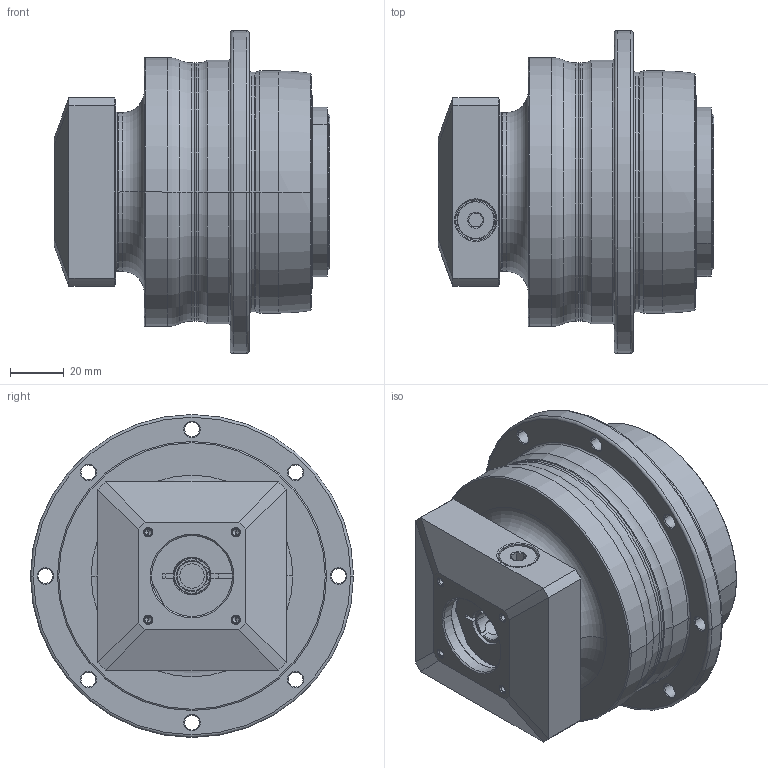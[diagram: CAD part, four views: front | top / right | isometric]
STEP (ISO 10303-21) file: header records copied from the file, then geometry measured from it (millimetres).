
FILE_DESCRIPTION((''),'2;1');
FILE_NAME('AH090_1ST_11-P0409200101_ASM','2016-07-26T',('d00435'),(''),'PRO/ENGINEER BY PARAMETRIC TECHNOLOGY CORPORATION, 2008410','PRO/ENGINEER BY PARAMETRIC TECHNOLOGY CORPORATION, 2008410','');
FILE_SCHEMA(('CONFIG_CONTROL_DESIGN'));
Length unit declared in the file: millimetre
Products named in the file (8): P0255300003; P0359300003; P1318300001; P0409200101; P0503200005; P0912300001; 21711410012; AH090_1ST_11-P0409200101_ASM
Assembly tree (7 placements, depth 2):
  AH090_1ST_11-P0409200101_ASM
    P0255300003
    P0359300003
    P1318300001
    P0409200101
    P0503200005
    P0912300001
    21711410012
Bounding box: 102.5 x 120 x 120 mm (x, y, z)
Volume: 559399.6 mm3; surface area: 116591 mm2
Topology: 8 solids, 32 shells, 585 faces, 1357 edges, 825 vertices
Faces by surface type: cylinder 244, cone 152, plane 115, torus 60, bspline 14
Entity records: 20986 total; most frequent: CARTESIAN_POINT 7315, DIRECTION 3125, ORIENTED_EDGE 2526, AXIS2_PLACEMENT_3D 1329, EDGE_CURVE 1311, VERTEX_POINT 825, CIRCLE 733, EDGE_LOOP 698
